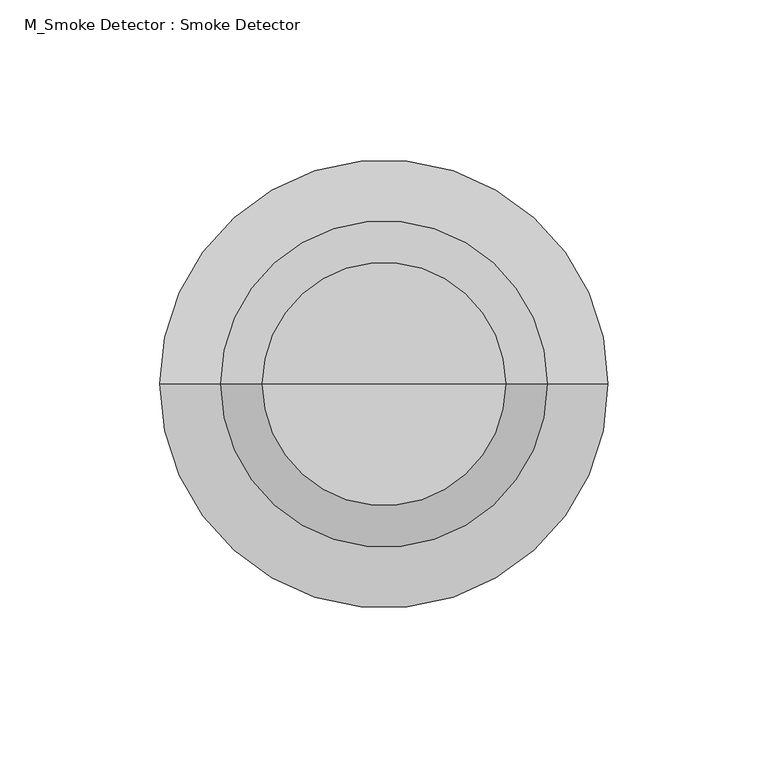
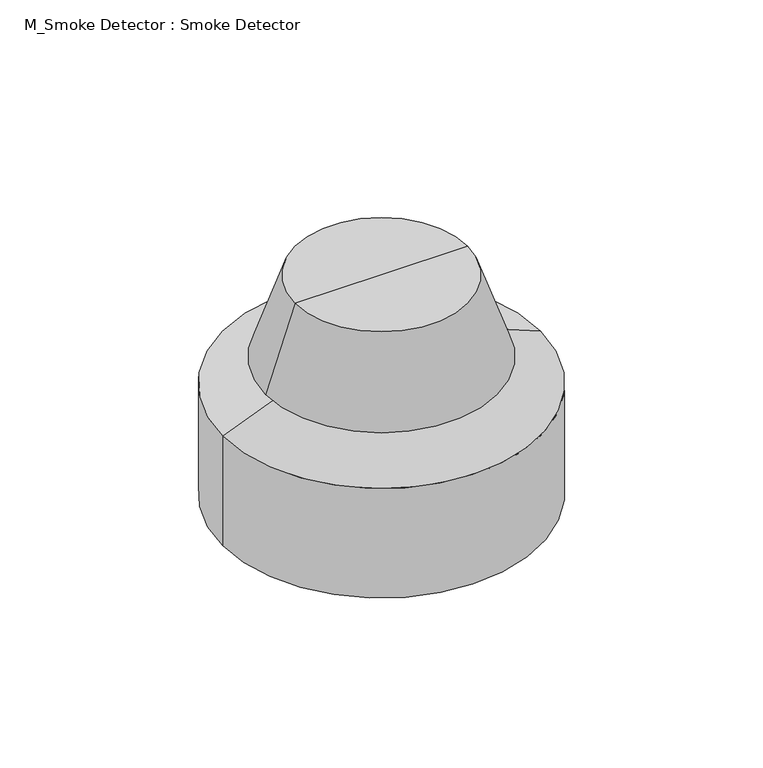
"""IFC4 building model written with IfcOpenShell, lengths in millimetres: proxy geometry, M_Smoke Detector : Smoke Detector."""

from ifc_helpers import new_model, si_unit, frame, origin, place, context, project, spatial, polyline, circle_curve, source, transform, mapped, element, save
from ifc_brep_helpers import plane_surface, cylinder_surface, revolved_surface, advanced_brep


def m_smoke_detector_smoke_detector_d0acf9f2(model_context):
    return source(origin(), model_context, "Body", "AdvancedBrep", [
        advanced_brep(
        [(0.0, 0.0, 101.7), (38.0, 0.0, 101.7), (-38.0, 0.0, 101.7), (-70.0, 0.0, 0.0), (70.0, 0.0, 0.0), (0.0, 0.0, 0.0), (-70.0, 0.0, 51.0), (70.0, 0.0, 51.0), (-38.0, 0.0, 63.7), (38.0, 0.0, 63.7), (-51.0, 0.0, 63.7), (51.0, 0.0, 63.7)],
        [
            (0, 1),
            (1, 2, circle_curve(frame((0.0, 0.0, 101.7), z_axis=(0.0, 0.0, 1.0), x_axis=(1.0, 0.0, 0.0)), 38.0)),
            (2, 0),
            (2, 1, circle_curve(frame((0.0, 0.0, 101.7), z_axis=(0.0, 0.0, 1.0), x_axis=(1.0, 0.0, 0.0)), 38.0)),
            (3, 4, circle_curve(frame((0.0, 0.0, 0.0), z_axis=(0.0, 0.0, -1.0), x_axis=(1.0, 0.0, 0.0)), 70.0)),
            (4, 5),
            (5, 3),
            (4, 3, circle_curve(frame((0.0, 0.0, 0.0), z_axis=(0.0, 0.0, -1.0), x_axis=(1.0, 0.0, 0.0)), 70.0)),
            (6, 7, circle_curve(frame((0.0, 0.0, 51.0), z_axis=(0.0, 0.0, -1.0), x_axis=(1.0, 0.0, 0.0)), 70.0)),
            (7, 4),
            (3, 6),
            (7, 6, circle_curve(frame((0.0, 0.0, 51.0), z_axis=(0.0, 0.0, -1.0), x_axis=(1.0, 0.0, 0.0)), 70.0)),
            (8, 9, circle_curve(frame((0.0, 0.0, 63.7), z_axis=(0.0, 0.0, -1.0), x_axis=(1.0, 0.0, 0.0)), 38.0)),
            (9, 7),
            (6, 8),
            (9, 8, circle_curve(frame((0.0, 0.0, 63.7), z_axis=(0.0, 0.0, -1.0), x_axis=(1.0, 0.0, 0.0)), 38.0)),
            (10, 11, circle_curve(frame((0.0, 0.0, 63.7), z_axis=(0.0, 0.0, -1.0), x_axis=(1.0, 0.0, 0.0)), 51.0)),
            (11, 9),
            (8, 10),
            (11, 10, circle_curve(frame((0.0, 0.0, 63.7), z_axis=(0.0, 0.0, -1.0), x_axis=(1.0, 0.0, 0.0)), 51.0)),
            (1, 11),
            (10, 2),
        ],
        [
            plane_surface(frame((0.0, 0.0, 101.7), z_axis=(0.0, 0.0, 1.0), x_axis=(1.0, 0.0, 0.0))),
            plane_surface(frame((0.0, 0.0, 0.0), z_axis=(0.0, 0.0, -1.0), x_axis=(1.0, 0.0, 0.0))),
            cylinder_surface(frame((0.0, 0.0, 31.95), z_axis=(0.0, 0.0, 1.0), x_axis=(1.0, 0.0, 0.0)), 70.0),
            revolved_surface(polyline([(70.0, 0.0, 51.0), (38.0, 0.0, 63.7)]), (0.0, 0.0, 31.95), (0.0, 0.0, 1.0)),
            plane_surface(frame((0.0, 0.0, 63.7), z_axis=(0.0, 0.0, -1.0), x_axis=(1.0, 0.0, 0.0))),
            revolved_surface(polyline([(51.0, 0.0, 63.7), (38.0, 0.0, 101.7)]), (0.0, 0.0, 31.95), (0.0, 0.0, 1.0)),
        ],
        [
            (0, [[1, 2, 3]]),
            (0, [[-3, 4, -1]]),
            (1, [[5, 6, 7]]),
            (1, [[8, -7, -6]]),
            (2, [[9, 10, -5, 11]]),
            (2, [[12, -11, -8, -10]]),
            (3, [[13, 14, -9, 15]]),
            (3, [[16, -15, -12, -14]]),
            (4, [[17, 18, -13, 19]]),
            (4, [[20, -19, -16, -18]]),
            (5, [[-2, 21, -17, 22]]),
            (5, [[-4, -22, -20, -21]]),
        ],
    ),
    ])


if __name__ == "__main__":
    model = new_model("IFC4")
    model_context = context("Model", 3, world=origin())
    ifc_project = project(units=[si_unit("LENGTHUNIT", "METRE", prefix="MILLI")], contexts=[model_context])
    site = spatial("IfcSite", under=ifc_project)
    building = spatial("IfcBuilding", under=site)
    placement = place(None, origin())
    m_smoke_detector_smoke_detector_shape = m_smoke_detector_smoke_detector_d0acf9f2(model_context)
    element("IfcBuildingElementProxy", 1, Name="M_Smoke Detector : Smoke Detector", ObjectType="M_Smoke Detector : Smoke Detector", at=placement, inside=building, context=model_context, shape_type="MappedRepresentation", body=[
        mapped(m_smoke_detector_smoke_detector_shape, transform((0.0, 0.0, 0.0), x_axis=(1.0, 0.0, 0.0), y_axis=(0.0, 1.0, 0.0), z_axis=(0.0, 0.0, 1.0))),
    ])
    save(model, "model.ifc")
